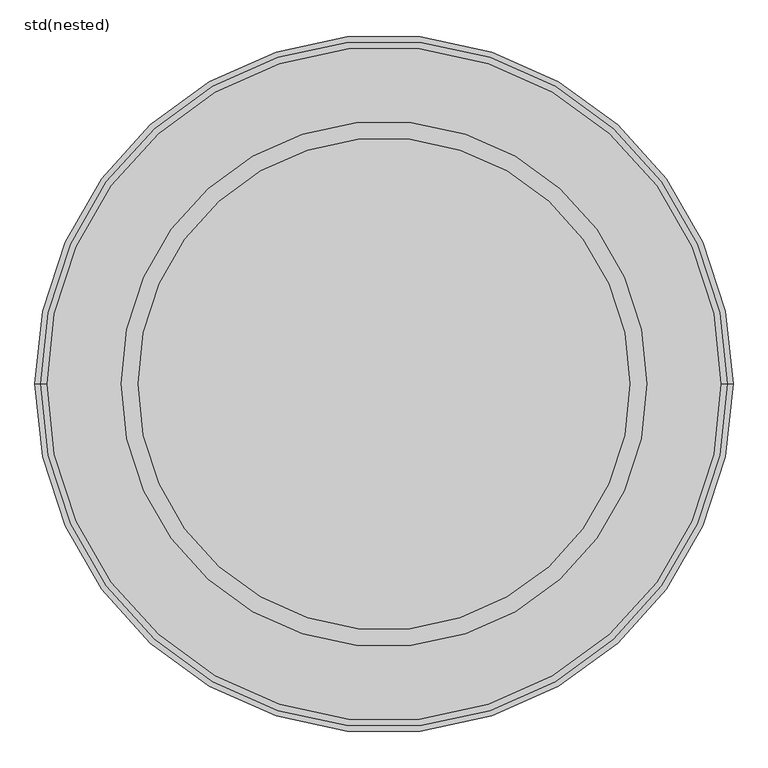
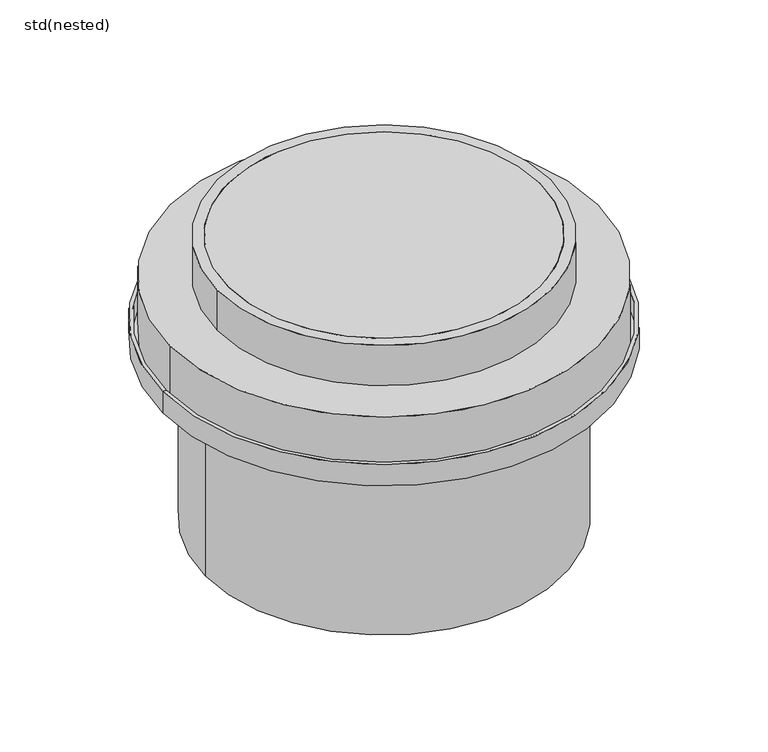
"""IFC4 building model written with IfcOpenShell, lengths in millimetres: unitary equipment geometry, ZZZ_do not use_ME_ST_WPB_top sections_plastic_ACO : std(nested)."""

from ifc_helpers import new_model, si_unit, point, frame, origin, origin_2d, place, context, project, spatial, polyline, circle_curve, trimmed, segment, composite_curve, outline, extrude, source, transform, mapped, element, save
from ifc_brep_helpers import plane_surface, cylinder_surface, revolved_surface, advanced_brep


def std_nested_3313eb94(model_context):
    return source(origin(), model_context, "Body", "SolidModel", [
        advanced_brep(
        [(-510.0, 0.0, -205.0), (510.0, 0.0, -205.0), (518.0, 0.0, -205.0), (-518.0, 0.0, -205.0), (-510.0, 0.0, -250.0), (510.0, 0.0, -250.0), (-410.0, 0.0, -250.0), (410.0, 0.0, -250.0), (-410.0, 0.0, -697.0), (410.0, 0.0, -697.0), (-418.0, 0.0, -697.0), (418.0, 0.0, -697.0), (-418.0, 0.0, -258.0), (418.0, 0.0, -258.0), (-518.0, 0.0, -258.0), (518.0, 0.0, -258.0)],
        [
            (0, 1, circle_curve(frame((0.0, 0.0, -205.0), z_axis=(0.0, 0.0, -1.0), x_axis=(1.0, 0.0, 0.0)), 510.0)),
            (1, 2),
            (2, 3, circle_curve(frame((0.0, 0.0, -205.0), z_axis=(0.0, 0.0, 1.0), x_axis=(1.0, 0.0, 0.0)), 518.0)),
            (3, 0),
            (1, 0, circle_curve(frame((0.0, 0.0, -205.0), z_axis=(0.0, 0.0, -1.0), x_axis=(1.0, 0.0, 0.0)), 510.0)),
            (3, 2, circle_curve(frame((0.0, 0.0, -205.0), z_axis=(0.0, 0.0, 1.0), x_axis=(1.0, 0.0, 0.0)), 518.0)),
            (4, 5, circle_curve(frame((0.0, 0.0, -250.0), z_axis=(0.0, 0.0, -1.0), x_axis=(1.0, 0.0, 0.0)), 510.0)),
            (5, 1),
            (0, 4),
            (5, 4, circle_curve(frame((0.0, 0.0, -250.0), z_axis=(0.0, 0.0, -1.0), x_axis=(1.0, 0.0, 0.0)), 510.0)),
            (6, 7, circle_curve(frame((0.0, 0.0, -250.0), z_axis=(0.0, 0.0, -1.0), x_axis=(1.0, 0.0, 0.0)), 410.0)),
            (7, 5),
            (4, 6),
            (7, 6, circle_curve(frame((0.0, 0.0, -250.0), z_axis=(0.0, 0.0, -1.0), x_axis=(1.0, 0.0, 0.0)), 410.0)),
            (8, 9, circle_curve(frame((0.0, 0.0, -697.0), z_axis=(0.0, 0.0, -1.0), x_axis=(1.0, 0.0, 0.0)), 410.0)),
            (9, 7),
            (6, 8),
            (9, 8, circle_curve(frame((0.0, 0.0, -697.0), z_axis=(0.0, 0.0, -1.0), x_axis=(1.0, 0.0, 0.0)), 410.0)),
            (10, 11, circle_curve(frame((0.0, 0.0, -697.0), z_axis=(0.0, 0.0, -1.0), x_axis=(1.0, 0.0, 0.0)), 418.0)),
            (11, 9),
            (8, 10),
            (11, 10, circle_curve(frame((0.0, 0.0, -697.0), z_axis=(0.0, 0.0, -1.0), x_axis=(1.0, 0.0, 0.0)), 418.0)),
            (12, 13, circle_curve(frame((0.0, 0.0, -258.0), z_axis=(0.0, 0.0, -1.0), x_axis=(1.0, 0.0, 0.0)), 418.0)),
            (13, 11),
            (10, 12),
            (13, 12, circle_curve(frame((0.0, 0.0, -258.0), z_axis=(0.0, 0.0, -1.0), x_axis=(1.0, 0.0, 0.0)), 418.0)),
            (14, 15, circle_curve(frame((0.0, 0.0, -258.0), z_axis=(0.0, 0.0, -1.0), x_axis=(1.0, 0.0, 0.0)), 518.0)),
            (15, 13),
            (12, 14),
            (15, 14, circle_curve(frame((0.0, 0.0, -258.0), z_axis=(0.0, 0.0, -1.0), x_axis=(1.0, 0.0, 0.0)), 518.0)),
            (2, 15),
            (14, 3),
        ],
        [
            plane_surface(frame((0.0, 0.0, -205.0), z_axis=(0.0, 0.0, 1.0), x_axis=(1.0, 0.0, 0.0))),
            revolved_surface(polyline([(510.0, 0.0, -205.0), (510.0, 0.0, -250.0)]), (0.0, 0.0, 240.0), (0.0, 0.0, 1.0)),
            plane_surface(frame((0.0, 0.0, -250.0), z_axis=(0.0, 0.0, 1.0), x_axis=(1.0, 0.0, 0.0))),
            revolved_surface(polyline([(410.0, 0.0, -250.0), (410.0, 0.0, -697.0)]), (0.0, 0.0, 240.0), (0.0, 0.0, 1.0)),
            plane_surface(frame((0.0, 0.0, -697.0), z_axis=(0.0, 0.0, -1.0), x_axis=(1.0, 0.0, 0.0))),
            cylinder_surface(frame((0.0, 0.0, 240.0), z_axis=(0.0, 0.0, 1.0), x_axis=(1.0, 0.0, 0.0)), 418.0),
            plane_surface(frame((0.0, 0.0, -258.0), z_axis=(0.0, 0.0, -1.0), x_axis=(1.0, 0.0, 0.0))),
            cylinder_surface(frame((0.0, 0.0, 240.0), z_axis=(0.0, 0.0, 1.0), x_axis=(1.0, 0.0, 0.0)), 518.0),
        ],
        [
            (0, [[1, 2, 3, 4]]),
            (0, [[5, -4, 6, -2]]),
            (1, [[7, 8, -1, 9]]),
            (1, [[10, -9, -5, -8]]),
            (2, [[11, 12, -7, 13]]),
            (2, [[14, -13, -10, -12]]),
            (3, [[15, 16, -11, 17]]),
            (3, [[18, -17, -14, -16]]),
            (4, [[19, 20, -15, 21]]),
            (4, [[22, -21, -18, -20]]),
            (5, [[23, 24, -19, 25]]),
            (5, [[26, -25, -22, -24]]),
            (6, [[27, 28, -23, 29]]),
            (6, [[30, -29, -26, -28]]),
            (7, [[-3, 31, -27, 32]]),
            (7, [[-6, -32, -30, -31]]),
        ],
    ),
        extrude(outline(composite_curve([segment(trimmed(circle_curve(origin_2d(), 500.0), [point((-500.0, 0.0))], [point((500.0, 0.0))], False, "CARTESIAN"), True, "CONTINUOUS"), segment(trimmed(circle_curve(origin_2d(), 500.0), [point((500.0, 0.0))], [point((-500.0, 0.0))], False, "CARTESIAN"), True, "CONTINUOUS")], self_intersect=False)), frame((0.0, 0.0, -250.0), z_axis=(0.0, 0.0, 1.0), x_axis=(1.0, 0.0, 0.0)), (0.0, 0.0, 1.0), 150.0),
        extrude(outline(composite_curve([segment(trimmed(circle_curve(origin_2d(), 365.0), [point((365.0, 0.0))], [point((-365.0, 0.0))], False, "CARTESIAN"), True, "CONTINUOUS"), segment(trimmed(circle_curve(origin_2d(), 365.0), [point((-365.0, 0.0))], [point((365.0, 0.0))], False, "CARTESIAN"), True, "CONTINUOUS")], self_intersect=False)), frame((0.0, 0.0, -100.0), z_axis=(0.0, 0.0, 1.0), x_axis=(1.0, 0.0, 0.0)), (0.0, 0.0, 1.0), 100.0),
        extrude(outline(composite_curve([segment(trimmed(circle_curve(origin_2d(), 390.0), [point((-390.0, 0.0))], [point((390.0, 0.0))], False, "CARTESIAN"), True, "CONTINUOUS"), segment(trimmed(circle_curve(origin_2d(), 390.0), [point((390.0, 0.0))], [point((-390.0, 0.0))], False, "CARTESIAN"), True, "CONTINUOUS")], self_intersect=False), holes=[composite_curve([segment(trimmed(circle_curve(origin_2d(), 365.0), [point((-365.0, 0.0))], [point((365.0, 0.0))], True, "CARTESIAN"), True, "CONTINUOUS"), segment(trimmed(circle_curve(origin_2d(), 365.0), [point((365.0, 0.0))], [point((-365.0, 0.0))], True, "CARTESIAN"), True, "CONTINUOUS")], self_intersect=False)]), frame((0.0, 0.0, -100.0), z_axis=(0.0, 0.0, 1.0), x_axis=(1.0, 0.0, 0.0)), (0.0, 0.0, 1.0), 100.0),
    ])


if __name__ == "__main__":
    model = new_model("IFC4")
    model_context = context("Model", 3, world=origin())
    ifc_project = project(units=[si_unit("LENGTHUNIT", "METRE", prefix="MILLI")], contexts=[model_context])
    site = spatial("IfcSite", under=ifc_project)
    building = spatial("IfcBuilding", under=site)
    placement = place(None, origin())
    std_nested_shape = std_nested_3313eb94(model_context)
    element("IfcUnitaryEquipment", 1, ObjectType="ZZZ_do not use_ME_ST_WPB_top sections_plastic_ACO : std(nested)", at=placement, inside=building, context=model_context, shape_type="MappedRepresentation", body=[
        mapped(std_nested_shape, transform((0.0, 0.0, 0.0), x_axis=(1.0, 0.0, 0.0), y_axis=(0.0, 1.0, 0.0), z_axis=(0.0, 0.0, 1.0))),
    ])
    save(model, "model.ifc")
